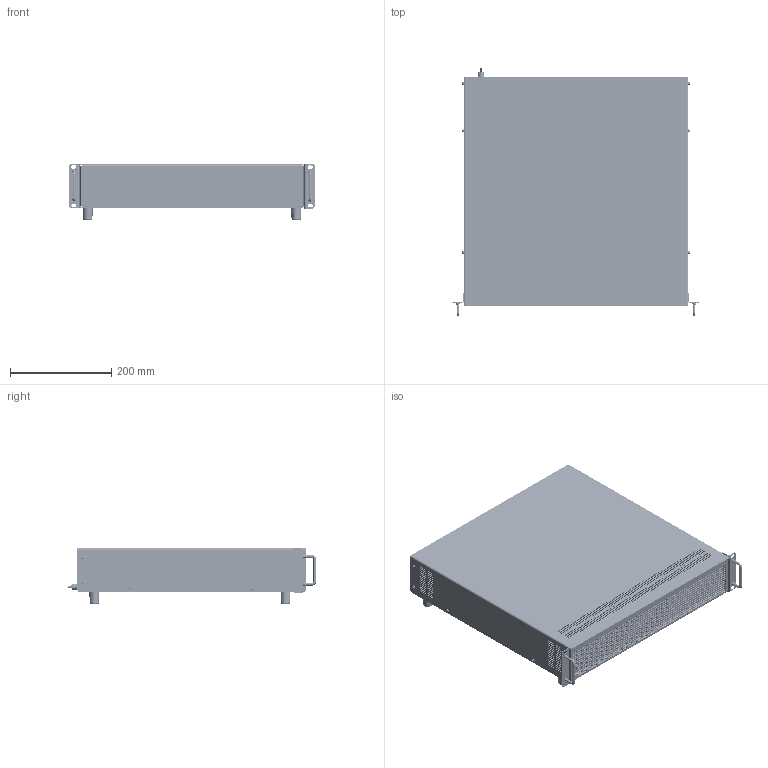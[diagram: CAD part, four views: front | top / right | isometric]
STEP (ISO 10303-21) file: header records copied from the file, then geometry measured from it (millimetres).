
FILE_DESCRIPTION(('STEP AP214'),'1');
FILE_NAME('PMLA_M11_S_19Z_2_PH8_7_62_ST43_BRD_3D_01.step','2025-05-27T08:16:53',(' '),(' '),'Spatial InterOp 3D',' ',' ');
FILE_SCHEMA(('AUTOMOTIVE_DESIGN { 1 0 10303 214 1 1 1 1 }'));
Length unit declared in the file: millimetre
Products named in the file (12): 473_PMLI_Boden_3D_06; 459_PLI_19_Zoll_Deckel_3D_03; 2386_PMLA Frontplatte Slave für Touch UI_01 mit Einbauten; 1784_PMLA_Rückwand_Slave_3D_06  mit Einbauten; *U740; *U741; *U742; *U743; 1E5E0040; AutoCreatedBlock_877; AutoCreatedBlock_867
Assembly tree (15 placements, depth 3):
  (unnamed)
    473_PMLI_Boden_3D_06
    459_PLI_19_Zoll_Deckel_3D_03
    2386_PMLA Frontplatte Slave für Touch UI_01 mit Einbauten
    1784_PMLA_Rückwand_Slave_3D_06  mit Einbauten
      *U740
      *U741  x2
      *U742  x3
      *U743  x2
      1E5E0040
      AutoCreatedBlock_877
    AutoCreatedBlock_867
Bounding box: 483.3 x 488.5 x 109.75 mm (x, y, z)
Volume: 15160164.1 mm3; surface area: 1702845.5 mm2
Topology: 76 solids, 76 shells, 11315 faces, 29591 edges, 19038 vertices
Faces by surface type: plane 7493, cylinder 1879, cone 1744, torus 102, bspline 71, sphere 22, extrusion 4
Entity records: 448096 total; most frequent: CARTESIAN_POINT 76265, ORIENTED_EDGE 57446, DIRECTION 56670, EDGE_CURVE 28723, VECTOR 23236, LINE 23232, VERTEX_POINT 18287, AXIS2_PLACEMENT_3D 16717
